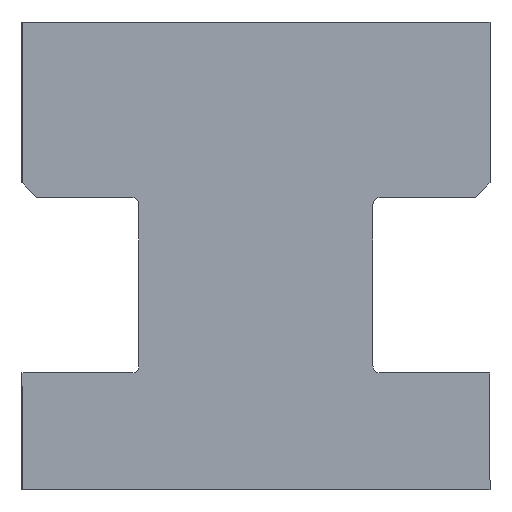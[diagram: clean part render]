
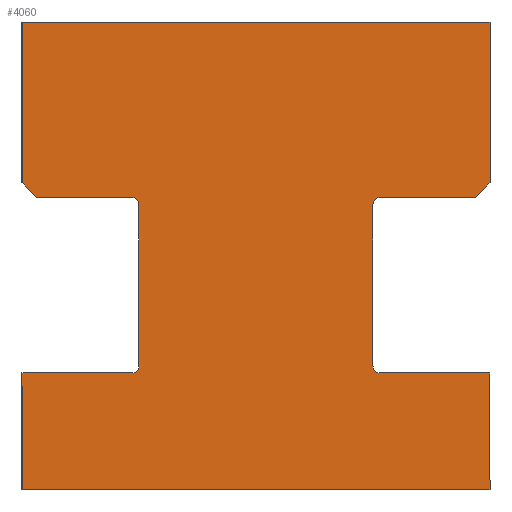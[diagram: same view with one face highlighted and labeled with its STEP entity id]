
A CAD part, front view. The second image highlights one B-rep face of the part: STEP entity #4060.
In plain terms, the highlighted planar face has unit normal (0, -1, 0).
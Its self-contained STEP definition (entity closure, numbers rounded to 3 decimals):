
#79 = DIRECTION ( 'NONE',  ( 1., 0., 0. ) ) ;
#124 = ORIENTED_EDGE ( 'NONE', *, *, #1533, .F. ) ;
#162 = CARTESIAN_POINT ( 'NONE',  ( 4.25, -50., 10. ) ) ;
#274 = LINE ( 'NONE', #3583, #6287 ) ;
#280 = EDGE_CURVE ( 'NONE', #6756, #3308, #2062, .T. ) ;
#284 = CARTESIAN_POINT ( 'NONE',  ( -8., -50., 16. ) ) ;
#399 = EDGE_CURVE ( 'NONE', #6733, #3308, #4087, .T. ) ;
#457 = CARTESIAN_POINT ( 'NONE',  ( -8., -50., 16. ) ) ;
#464 = EDGE_CURVE ( 'NONE', #3216, #5137, #4224, .T. ) ;
#467 = AXIS2_PLACEMENT_3D ( 'NONE', #2512, #1415, #2067 ) ;
#497 = CARTESIAN_POINT ( 'NONE',  ( 8., -50., 16. ) ) ;
#548 = LINE ( 'NONE', #2794, #3587 ) ;
#575 = VECTOR ( 'NONE', #1040, 1000. ) ;
#759 = VERTEX_POINT ( 'NONE', #2108 ) ;
#791 = LINE ( 'NONE', #1261, #2658 ) ;
#825 = DIRECTION ( 'NONE',  ( 0.707, 0., -0.707 ) ) ;
#870 = VERTEX_POINT ( 'NONE', #7076 ) ;
#880 = CARTESIAN_POINT ( 'NONE',  ( -8., -50., 0. ) ) ;
#1019 = CARTESIAN_POINT ( 'NONE',  ( -8., -50., 4. ) ) ;
#1026 = VECTOR ( 'NONE', #6428, 1000. ) ;
#1040 = DIRECTION ( 'NONE',  ( 0., 0., 1. ) ) ;
#1055 = CARTESIAN_POINT ( 'NONE',  ( -4.25, -50., 10. ) ) ;
#1161 = AXIS2_PLACEMENT_3D ( 'NONE', #2223, #3887, #3282 ) ;
#1188 = LINE ( 'NONE', #5535, #3117 ) ;
#1261 = CARTESIAN_POINT ( 'NONE',  ( -4., -50., 4.25 ) ) ;
#1332 = LINE ( 'NONE', #284, #2441 ) ;
#1339 = CARTESIAN_POINT ( 'NONE',  ( 8., -50., 4. ) ) ;
#1345 = CARTESIAN_POINT ( 'NONE',  ( 8., -50., 16. ) ) ;
#1385 = EDGE_CURVE ( 'NONE', #870, #1513, #2187, .T. ) ;
#1394 = CARTESIAN_POINT ( 'NONE',  ( 4., -50., 4.25 ) ) ;
#1415 = DIRECTION ( 'NONE',  ( 0., 1., 0. ) ) ;
#1491 = ORIENTED_EDGE ( 'NONE', *, *, #3694, .T. ) ;
#1513 = VERTEX_POINT ( 'NONE', #162 ) ;
#1519 = LINE ( 'NONE', #5399, #575 ) ;
#1526 = VERTEX_POINT ( 'NONE', #1394 ) ;
#1533 = EDGE_CURVE ( 'NONE', #2687, #6756, #274, .T. ) ;
#1581 = CARTESIAN_POINT ( 'NONE',  ( 8., -50., 10.5 ) ) ;
#1607 = VECTOR ( 'NONE', #3296, 1000. ) ;
#1635 = DIRECTION ( 'NONE',  ( 1., 0., 0. ) ) ;
#1725 = DIRECTION ( 'NONE',  ( 1., 0., 0. ) ) ;
#1821 = EDGE_CURVE ( 'NONE', #1513, #6733, #5442, .T. ) ;
#2004 = ORIENTED_EDGE ( 'NONE', *, *, #6873, .T. ) ;
#2016 = ORIENTED_EDGE ( 'NONE', *, *, #1385, .T. ) ;
#2038 = VERTEX_POINT ( 'NONE', #5433 ) ;
#2062 = LINE ( 'NONE', #497, #1026 ) ;
#2067 = DIRECTION ( 'NONE',  ( 0., 0., 1. ) ) ;
#2089 = VERTEX_POINT ( 'NONE', #1339 ) ;
#2108 = CARTESIAN_POINT ( 'NONE',  ( -4.25, -50., 4. ) ) ;
#2149 = CARTESIAN_POINT ( 'NONE',  ( 8., -50., 16. ) ) ;
#2160 = CARTESIAN_POINT ( 'NONE',  ( -8., -50., 0. ) ) ;
#2182 = PLANE ( 'NONE',  #1161 ) ;
#2187 = CIRCLE ( 'NONE', #6160, 0.25 ) ;
#2223 = CARTESIAN_POINT ( 'NONE',  ( -8., -50., 16. ) ) ;
#2264 = EDGE_CURVE ( 'NONE', #6485, #2515, #5359, .T. ) ;
#2441 = VECTOR ( 'NONE', #4588, 1000. ) ;
#2512 = CARTESIAN_POINT ( 'NONE',  ( -4.25, -50., 4.25 ) ) ;
#2515 = VERTEX_POINT ( 'NONE', #880 ) ;
#2658 = VECTOR ( 'NONE', #5045, 1000. ) ;
#2687 = VERTEX_POINT ( 'NONE', #6569 ) ;
#2721 = CARTESIAN_POINT ( 'NONE',  ( -4., -50., 4.25 ) ) ;
#2794 = CARTESIAN_POINT ( 'NONE',  ( 8., -50., 4. ) ) ;
#2878 = AXIS2_PLACEMENT_3D ( 'NONE', #4729, #4795, #5320 ) ;
#2922 = ORIENTED_EDGE ( 'NONE', *, *, #464, .T. ) ;
#2968 = EDGE_CURVE ( 'NONE', #5137, #6320, #791, .T. ) ;
#2975 = ORIENTED_EDGE ( 'NONE', *, *, #399, .T. ) ;
#3030 = VECTOR ( 'NONE', #5347, 1000. ) ;
#3117 = VECTOR ( 'NONE', #1725, 1000. ) ;
#3209 = EDGE_CURVE ( 'NONE', #759, #6485, #4820, .T. ) ;
#3216 = VERTEX_POINT ( 'NONE', #1055 ) ;
#3282 = DIRECTION ( 'NONE',  ( 0., 0., 1. ) ) ;
#3296 = DIRECTION ( 'NONE',  ( 0., 0., -1. ) ) ;
#3308 = VERTEX_POINT ( 'NONE', #1581 ) ;
#3364 = EDGE_CURVE ( 'NONE', #1526, #870, #1519, .T. ) ;
#3495 = EDGE_CURVE ( 'NONE', #6578, #3216, #1188, .T. ) ;
#3583 = CARTESIAN_POINT ( 'NONE',  ( -8., -50., 16. ) ) ;
#3587 = VECTOR ( 'NONE', #4825, 1000. ) ;
#3654 = DIRECTION ( 'NONE',  ( 0., 1., 0. ) ) ;
#3694 = EDGE_CURVE ( 'NONE', #2687, #2038, #1332, .T. ) ;
#3740 = CARTESIAN_POINT ( 'NONE',  ( 4.25, -50., 4.25 ) ) ;
#3799 = VECTOR ( 'NONE', #79, 1000. ) ;
#3847 = DIRECTION ( 'NONE',  ( 0., 1., 0. ) ) ;
#3887 = DIRECTION ( 'NONE',  ( 0., 1., 0. ) ) ;
#3922 = CARTESIAN_POINT ( 'NONE',  ( 7.5, -50., 10. ) ) ;
#3948 = ORIENTED_EDGE ( 'NONE', *, *, #2968, .T. ) ;
#4060 = ADVANCED_FACE ( 'NONE', ( #5414 ), #2182, .F. ) ;
#4087 = LINE ( 'NONE', #6186, #5914 ) ;
#4145 = CIRCLE ( 'NONE', #5055, 0.25 ) ;
#4191 = ORIENTED_EDGE ( 'NONE', *, *, #3364, .T. ) ;
#4222 = CARTESIAN_POINT ( 'NONE',  ( 4.25, -50., 9.75 ) ) ;
#4224 = CIRCLE ( 'NONE', #2878, 0.25 ) ;
#4272 = ORIENTED_EDGE ( 'NONE', *, *, #4538, .T. ) ;
#4414 = CARTESIAN_POINT ( 'NONE',  ( 8., -50., 10. ) ) ;
#4538 = EDGE_CURVE ( 'NONE', #2038, #6578, #4545, .T. ) ;
#4545 = LINE ( 'NONE', #4619, #5052 ) ;
#4551 = ORIENTED_EDGE ( 'NONE', *, *, #3209, .T. ) ;
#4588 = DIRECTION ( 'NONE',  ( 0., 0., -1. ) ) ;
#4619 = CARTESIAN_POINT ( 'NONE',  ( -7.5, -50., 10. ) ) ;
#4729 = CARTESIAN_POINT ( 'NONE',  ( -4.25, -50., 9.75 ) ) ;
#4795 = DIRECTION ( 'NONE',  ( 0., 1., 0. ) ) ;
#4820 = LINE ( 'NONE', #1019, #7074 ) ;
#4825 = DIRECTION ( 'NONE',  ( -1., 0., 0. ) ) ;
#5045 = DIRECTION ( 'NONE',  ( 0., 0., -1. ) ) ;
#5046 = EDGE_CURVE ( 'NONE', #6320, #759, #5488, .T. ) ;
#5052 = VECTOR ( 'NONE', #825, 1000. ) ;
#5055 = AXIS2_PLACEMENT_3D ( 'NONE', #3740, #3847, #5898 ) ;
#5133 = ORIENTED_EDGE ( 'NONE', *, *, #280, .F. ) ;
#5137 = VERTEX_POINT ( 'NONE', #6102 ) ;
#5231 = ORIENTED_EDGE ( 'NONE', *, *, #3495, .T. ) ;
#5320 = DIRECTION ( 'NONE',  ( 0., 0., -1. ) ) ;
#5347 = DIRECTION ( 'NONE',  ( 0., 0., -1. ) ) ;
#5359 = LINE ( 'NONE', #457, #1607 ) ;
#5399 = CARTESIAN_POINT ( 'NONE',  ( 4., -50., 4.25 ) ) ;
#5414 = FACE_OUTER_BOUND ( 'NONE', #6239, .T. ) ;
#5433 = CARTESIAN_POINT ( 'NONE',  ( -8., -50., 10.5 ) ) ;
#5442 = LINE ( 'NONE', #4414, #5930 ) ;
#5488 = CIRCLE ( 'NONE', #467, 0.25 ) ;
#5535 = CARTESIAN_POINT ( 'NONE',  ( -8., -50., 10. ) ) ;
#5657 = ORIENTED_EDGE ( 'NONE', *, *, #5046, .T. ) ;
#5719 = ORIENTED_EDGE ( 'NONE', *, *, #6523, .T. ) ;
#5769 = CARTESIAN_POINT ( 'NONE',  ( -8., -50., 4. ) ) ;
#5817 = DIRECTION ( 'NONE',  ( 0., 0., -1. ) ) ;
#5863 = ORIENTED_EDGE ( 'NONE', *, *, #2264, .T. ) ;
#5876 = ORIENTED_EDGE ( 'NONE', *, *, #5949, .T. ) ;
#5898 = DIRECTION ( 'NONE',  ( 0., 0., 1. ) ) ;
#5914 = VECTOR ( 'NONE', #6676, 1000. ) ;
#5930 = VECTOR ( 'NONE', #1635, 1000. ) ;
#5949 = EDGE_CURVE ( 'NONE', #2515, #6203, #6591, .T. ) ;
#5979 = DIRECTION ( 'NONE',  ( -1., 0., 0. ) ) ;
#6102 = CARTESIAN_POINT ( 'NONE',  ( -4., -50., 9.75 ) ) ;
#6117 = CARTESIAN_POINT ( 'NONE',  ( 4.25, -50., 4. ) ) ;
#6160 = AXIS2_PLACEMENT_3D ( 'NONE', #4222, #3654, #5817 ) ;
#6186 = CARTESIAN_POINT ( 'NONE',  ( 8., -50., 10.5 ) ) ;
#6203 = VERTEX_POINT ( 'NONE', #6893 ) ;
#6239 = EDGE_LOOP ( 'NONE', ( #6382, #2975, #5133, #124, #1491, #4272, #5231, #2922, #3948, #5657, #4551, #5863, #5876, #6974, #2004, #5719, #4191, #2016 ) ) ;
#6287 = VECTOR ( 'NONE', #6706, 1000. ) ;
#6320 = VERTEX_POINT ( 'NONE', #2721 ) ;
#6382 = ORIENTED_EDGE ( 'NONE', *, *, #1821, .T. ) ;
#6409 = CARTESIAN_POINT ( 'NONE',  ( -7.5, -50., 10. ) ) ;
#6415 = LINE ( 'NONE', #2149, #3030 ) ;
#6428 = DIRECTION ( 'NONE',  ( 0., 0., -1. ) ) ;
#6485 = VERTEX_POINT ( 'NONE', #5769 ) ;
#6523 = EDGE_CURVE ( 'NONE', #6727, #1526, #4145, .T. ) ;
#6569 = CARTESIAN_POINT ( 'NONE',  ( -8., -50., 16. ) ) ;
#6578 = VERTEX_POINT ( 'NONE', #6409 ) ;
#6591 = LINE ( 'NONE', #2160, #3799 ) ;
#6676 = DIRECTION ( 'NONE',  ( 0.707, 0., 0.707 ) ) ;
#6706 = DIRECTION ( 'NONE',  ( 1., 0., 0. ) ) ;
#6727 = VERTEX_POINT ( 'NONE', #6117 ) ;
#6733 = VERTEX_POINT ( 'NONE', #3922 ) ;
#6756 = VERTEX_POINT ( 'NONE', #1345 ) ;
#6785 = EDGE_CURVE ( 'NONE', #2089, #6203, #6415, .T. ) ;
#6873 = EDGE_CURVE ( 'NONE', #2089, #6727, #548, .T. ) ;
#6893 = CARTESIAN_POINT ( 'NONE',  ( 8., -50., 0. ) ) ;
#6974 = ORIENTED_EDGE ( 'NONE', *, *, #6785, .F. ) ;
#7074 = VECTOR ( 'NONE', #5979, 1000. ) ;
#7076 = CARTESIAN_POINT ( 'NONE',  ( 4., -50., 9.75 ) ) ;
